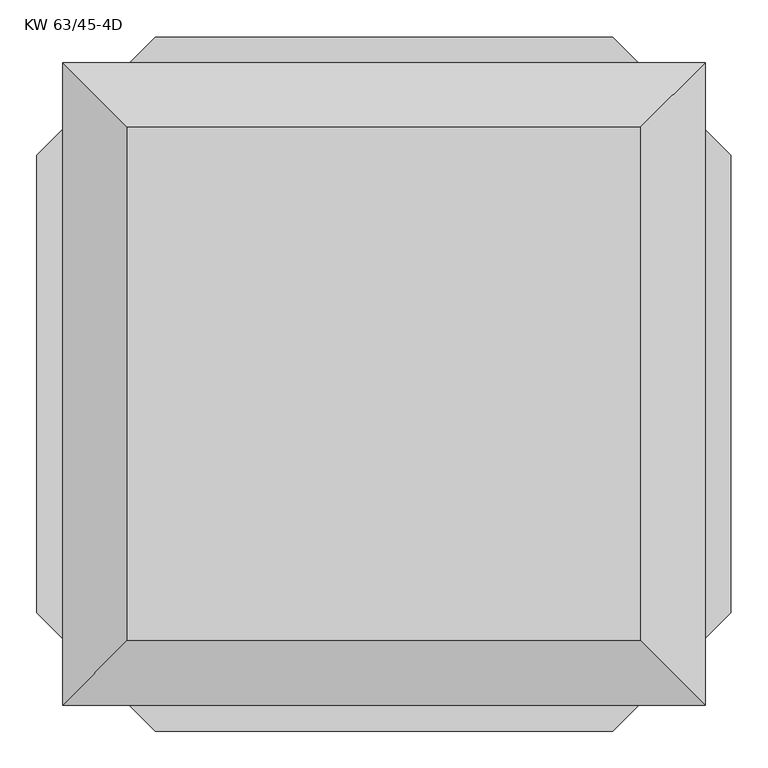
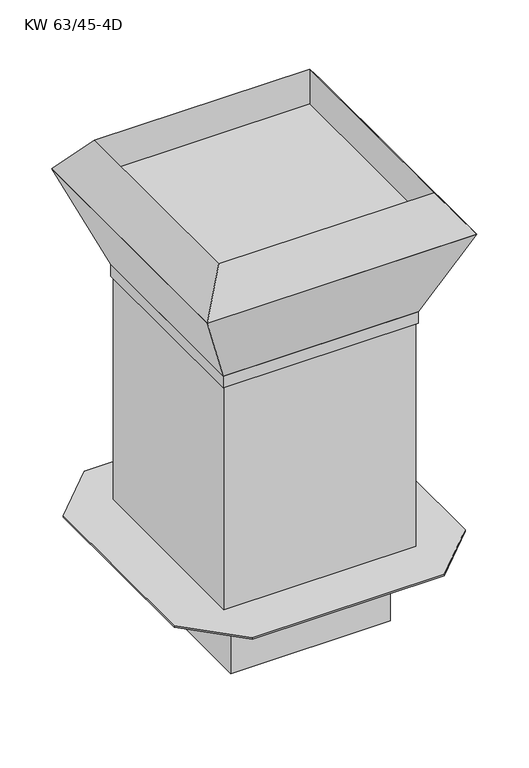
"""IFC4 building model written with IfcOpenShell, lengths in millimetres: proxy geometry, KORF_Вентилятор_Вытяжной_Крышный_KW : KW 63/45-4D."""

from ifc_helpers import new_model, si_unit, frame, origin, place, context, project, spatial, polyline, outline, extrude, faceted_brep, source, transform, mapped, element, save


def kw_63_45_4d_b49a6be6(model_context):
    return source(origin(), model_context, "Body", "SolidModel", [
        faceted_brep([(257.5, 280.0, -1.0), (257.5, 257.5, -1.0), (-257.5, 257.5, -1.0), (-257.5, 280.0, -1.0), (257.5, -257.5, -1.0), (257.5, -280.0, -1.0), (-257.5, -280.0, -1.0), (-257.5, -257.5, -1.0), (-257.5, 280.0, 0.0), (257.5, 280.0, 0.0), (-257.5, 257.5, 0.0), (257.5, 257.5, 0.0), (-257.5, -280.0, 0.0), (-257.5, -257.5, 0.0), (257.5, -280.0, 0.0), (257.5, -257.5, 0.0), (-281.5, 257.5, 0.0), (-281.5, -257.5, 0.0), (280.0, -257.5, 0.0), (280.0, 257.5, 0.0), (256.0, 256.0, 0.0), (256.0, -256.0, 0.0), (-256.0, -256.0, 0.0), (-256.0, 256.0, 0.0), (-281.5, 257.5, -1.0), (-281.5, -257.5, -1.0), (280.0, -257.5, -1.0), (280.0, 257.5, -1.0), (257.5, -257.5, -264.0), (-257.5, -257.5, -264.0), (-257.5, 257.5, -264.0), (257.5, 257.5, -264.0), (256.0, 256.0, -264.0), (-256.0, 256.0, -264.0), (-256.0, -256.0, -264.0), (256.0, -256.0, -264.0)], [[[0, 1, 2, 3]], [[4, 5, 6, 7]], [[0, 3, 8, 9]], [[3, 2, 10, 8]], [[1, 0, 9, 11]], [[7, 6, 12, 13]], [[6, 5, 14, 12]], [[5, 4, 15, 14]], [[16, 17, 13, 12, 14, 15, 18, 19, 11, 9, 8, 10], [20, 21, 22, 23]], [[24, 2, 7, 25]], [[26, 4, 1, 27]], [[17, 16, 24, 25]], [[13, 17, 25, 7]], [[16, 10, 2, 24]], [[19, 18, 26, 27]], [[11, 19, 27, 1]], [[18, 15, 4, 26]], [[28, 29, 30, 31], [32, 33, 34, 35]], [[28, 31, 1, 4]], [[31, 30, 2, 1]], [[30, 29, 7, 2]], [[29, 28, 4, 7]], [[21, 20, 32, 35]], [[22, 21, 35, 34]], [[23, 22, 34, 33]], [[20, 23, 33, 32]]]),
        faceted_brep([(310.0, 310.0, 807.0), (-310.0, 310.0, 807.0), (-310.0, -310.0, 807.0), (310.0, -310.0, 807.0), (310.0, 470.0, 0.0), (470.0, 310.0, 0.0), (470.0, -310.0, 0.0), (310.0, -470.0, 0.0), (-310.0, -470.0, 0.0), (-470.0, -310.0, 0.0), (-470.0, 310.0, 0.0), (-310.0, 470.0, 0.0), (310.0, 310.0, 5.0), (-310.0, 310.0, 5.0), (-310.0, -310.0, 5.0), (310.0, -310.0, 5.0), (310.0, 470.0, 5.0), (-310.0, 470.0, 5.0), (-470.0, 310.0, 5.0), (-470.0, -310.0, 5.0), (-310.0, -470.0, 5.0), (310.0, -470.0, 5.0), (470.0, -310.0, 5.0), (470.0, 310.0, 5.0)], [[[0, 1, 2, 3]], [[4, 5, 6, 7, 8, 9, 10, 11]], [[1, 0, 12, 13]], [[2, 1, 13, 14]], [[3, 2, 14, 15]], [[0, 3, 15, 12]], [[16, 17, 18, 19, 20, 21, 22, 23], [13, 12, 15, 14]], [[17, 16, 4, 11]], [[18, 17, 11, 10]], [[19, 18, 10, 9]], [[20, 19, 9, 8]], [[21, 20, 8, 7]], [[22, 21, 7, 6]], [[23, 22, 6, 5]], [[16, 23, 5, 4]]]),
        faceted_brep([(435.0, 435.0, 1102.75), (435.0, -435.0, 1102.75), (-435.0, -435.0, 1102.75), (-435.0, 435.0, 1102.75), (348.0, 348.0, 1102.75), (-348.0, 348.0, 1102.75), (-348.0, -348.0, 1102.75), (348.0, -348.0, 1102.75), (-348.0, 348.0, 1222.0), (348.0, 348.0, 1222.0), (-348.0, -348.0, 1222.0), (348.0, -348.0, 1222.0)], [[[0, 1, 2, 3], [4, 5, 6, 7]], [[0, 3, 8, 9]], [[3, 2, 10, 8]], [[2, 1, 11, 10]], [[1, 0, 9, 11]], [[8, 5, 4, 9]], [[5, 8, 10, 6]], [[6, 10, 11, 7]], [[9, 4, 7, 11]]]),
        faceted_brep([(435.0, 435.0, 1102.75), (-435.0, 435.0, 1102.75), (-435.0, -435.0, 1102.75), (435.0, -435.0, 1102.75), (315.0, 315.0, 807.0), (315.0, -315.0, 807.0), (-315.0, -315.0, 807.0), (-315.0, 315.0, 807.0)], [[[0, 1, 2, 3]], [[4, 5, 6, 7]], [[4, 7, 1, 0]], [[7, 6, 2, 1]], [[6, 5, 3, 2]], [[5, 4, 0, 3]]]),
        extrude(outline(polyline([(315.0, 315.0), (315.0, -315.0), (-315.0, -315.0), (-315.0, 315.0), (315.0, 315.0)]), holes=[polyline([(313.0, 313.0), (-313.0, 313.0), (-313.0, -313.0), (313.0, -313.0), (313.0, 313.0)])]), frame((0.0, 0.0, 767.0), z_axis=(0.0, 0.0, 1.0), x_axis=(1.0, 0.0, 0.0)), (0.0, 0.0, 1.0), 40.0),
    ])


if __name__ == "__main__":
    model = new_model("IFC4")
    model_context = context("Model", 3, world=origin())
    ifc_project = project(units=[si_unit("LENGTHUNIT", "METRE", prefix="MILLI")], contexts=[model_context])
    site = spatial("IfcSite", under=ifc_project)
    building = spatial("IfcBuilding", under=site)
    placement = place(None, origin())
    kw_63_45_4d_shape = kw_63_45_4d_b49a6be6(model_context)
    element("IfcBuildingElementProxy", 1, Name="KORF_Вентилятор_Вытяжной_Крышный_KW : KW 63/45-4D", ObjectType="KORF_Вентилятор_Вытяжной_Крышный_KW : KW 63/45-4D", at=placement, inside=building, context=model_context, shape_type="MappedRepresentation", body=[
        mapped(kw_63_45_4d_shape, transform((0.0, 0.0, 0.0), x_axis=(1.0, 0.0, 0.0), y_axis=(0.0, 1.0, 0.0), z_axis=(0.0, 0.0, 1.0))),
    ])
    save(model, "model.ifc")
